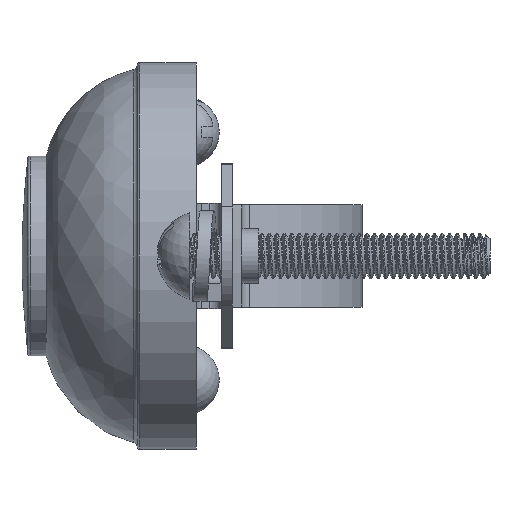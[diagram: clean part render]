
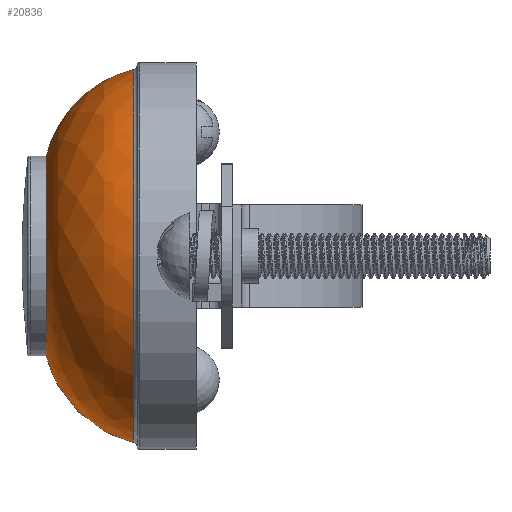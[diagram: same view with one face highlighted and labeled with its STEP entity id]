
A CAD part, left-side view. The second image highlights one B-rep face of the part: STEP entity #20836.
In plain terms, the highlighted free-form (B-spline) face has degree [2, 2] with [3, 9] control points.
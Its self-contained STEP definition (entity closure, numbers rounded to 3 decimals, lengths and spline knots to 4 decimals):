
#1575=(
BOUNDED_SURFACE()
B_SPLINE_SURFACE(2,2,((#29609,#29610,#29611,#29612,#29613,#29614,#29615,
#29616,#29617),(#29618,#29619,#29620,#29621,#29622,#29623,#29624,#29625,
#29626),(#29627,#29628,#29629,#29630,#29631,#29632,#29633,#29634,#29635)),
 .UNSPECIFIED.,.F.,.T.,.F.)
B_SPLINE_SURFACE_WITH_KNOTS((3,3),(3,2,2,2,3),(-1.3191,-0.2413),
(-3.1416,-1.5708,0.,1.5708,3.1416),
 .UNSPECIFIED.)
GEOMETRIC_REPRESENTATION_ITEM()
RATIONAL_B_SPLINE_SURFACE(((1.,0.707,1.,0.707,1.,
0.707,1.,0.707,1.),(0.858,0.607,
0.858,0.607,0.858,0.607,
0.858,0.607,0.858),(1.,0.707,
1.,0.707,1.,0.707,1.,0.707,1.)))
REPRESENTATION_ITEM('')
SURFACE()
);
#2544=FACE_OUTER_BOUND('',#3740,.T.);
#3740=EDGE_LOOP('',(#14580,#14581,#14582,#14583,#14584,#14585,#14586));
#9235=CIRCLE('',#22275,0.7765);
#9237=CIRCLE('',#22277,0.7765);
#9238=CIRCLE('',#22278,0.5);
#9239=CIRCLE('',#22279,0.4155);
#9240=CIRCLE('',#22280,0.4155);
#9241=CIRCLE('',#22281,0.4155);
#9523=VERTEX_POINT('',#29604);
#9524=VERTEX_POINT('',#29605);
#9525=VERTEX_POINT('',#29636);
#9526=VERTEX_POINT('',#29638);
#9527=VERTEX_POINT('',#29640);
#11449=EDGE_CURVE('',#9523,#9524,#9235,.T.);
#11451=EDGE_CURVE('',#9524,#9523,#9237,.T.);
#11452=EDGE_CURVE('',#9524,#9525,#9238,.T.);
#11453=EDGE_CURVE('',#9525,#9526,#9239,.T.);
#11454=EDGE_CURVE('',#9526,#9527,#9240,.T.);
#11455=EDGE_CURVE('',#9527,#9525,#9241,.T.);
#14580=ORIENTED_EDGE('',*,*,#11449,.F.);
#14581=ORIENTED_EDGE('',*,*,#11451,.F.);
#14582=ORIENTED_EDGE('',*,*,#11452,.T.);
#14583=ORIENTED_EDGE('',*,*,#11453,.T.);
#14584=ORIENTED_EDGE('',*,*,#11454,.T.);
#14585=ORIENTED_EDGE('',*,*,#11455,.T.);
#14586=ORIENTED_EDGE('',*,*,#11452,.F.);
#20836=ADVANCED_FACE('',(#2544),#1575,.F.);
#22275=AXIS2_PLACEMENT_3D('',#29606,#24058,#24059);
#22277=AXIS2_PLACEMENT_3D('',#29608,#24062,#24063);
#22278=AXIS2_PLACEMENT_3D('',#29637,#24064,#24065);
#22279=AXIS2_PLACEMENT_3D('',#29639,#24066,#24067);
#22280=AXIS2_PLACEMENT_3D('',#29641,#24068,#24069);
#22281=AXIS2_PLACEMENT_3D('',#29642,#24070,#24071);
#24058=DIRECTION('center_axis',(0.,-1.,0.));
#24059=DIRECTION('ref_axis',(1.,0.,0.));
#24062=DIRECTION('center_axis',(0.,-1.,0.));
#24063=DIRECTION('ref_axis',(1.,0.,0.));
#24064=DIRECTION('center_axis',(-1.,0.,0.));
#24065=DIRECTION('ref_axis',(0.,0.,1.));
#24066=DIRECTION('center_axis',(0.,-1.,0.));
#24067=DIRECTION('ref_axis',(1.,0.,0.));
#24068=DIRECTION('center_axis',(0.,-1.,0.));
#24069=DIRECTION('ref_axis',(1.,0.,0.));
#24070=DIRECTION('center_axis',(0.,-1.,0.));
#24071=DIRECTION('ref_axis',(1.,0.,0.));
#29604=CARTESIAN_POINT('',(0.7765,0.2602,0.));
#29605=CARTESIAN_POINT('',(0.,0.2602,0.7765));
#29606=CARTESIAN_POINT('Origin',(0.,0.2602,0.));
#29608=CARTESIAN_POINT('Origin',(0.,0.2602,0.));
#29609=CARTESIAN_POINT('Ctrl Pts',(0.,0.625,0.4155));
#29610=CARTESIAN_POINT('Ctrl Pts',(-0.4155,0.625,0.4155));
#29611=CARTESIAN_POINT('Ctrl Pts',(-0.4155,0.625,0.));
#29612=CARTESIAN_POINT('Ctrl Pts',(-0.4155,0.625,-0.4155));
#29613=CARTESIAN_POINT('Ctrl Pts',(0.,0.625,-0.4155));
#29614=CARTESIAN_POINT('Ctrl Pts',(0.4155,0.625,-0.4155));
#29615=CARTESIAN_POINT('Ctrl Pts',(0.4155,0.625,0.));
#29616=CARTESIAN_POINT('Ctrl Pts',(0.4155,0.625,0.4155));
#29617=CARTESIAN_POINT('Ctrl Pts',(0.,0.625,0.4155));
#29618=CARTESIAN_POINT('Ctrl Pts',(0.,0.5505,0.7051));
#29619=CARTESIAN_POINT('Ctrl Pts',(-0.7051,0.5505,
0.7051));
#29620=CARTESIAN_POINT('Ctrl Pts',(-0.7051,0.5505,
0.));
#29621=CARTESIAN_POINT('Ctrl Pts',(-0.7051,0.5505,
-0.7051));
#29622=CARTESIAN_POINT('Ctrl Pts',(0.,0.5505,-0.7051));
#29623=CARTESIAN_POINT('Ctrl Pts',(0.7051,0.5505,
-0.7051));
#29624=CARTESIAN_POINT('Ctrl Pts',(0.7051,0.5505,
0.));
#29625=CARTESIAN_POINT('Ctrl Pts',(0.7051,0.5505,
0.7051));
#29626=CARTESIAN_POINT('Ctrl Pts',(0.,0.5505,0.7051));
#29627=CARTESIAN_POINT('Ctrl Pts',(0.,0.2602,0.7765));
#29628=CARTESIAN_POINT('Ctrl Pts',(-0.7765,0.2602,
0.7765));
#29629=CARTESIAN_POINT('Ctrl Pts',(-0.7765,0.2602,
0.));
#29630=CARTESIAN_POINT('Ctrl Pts',(-0.7765,0.2602,
-0.7765));
#29631=CARTESIAN_POINT('Ctrl Pts',(0.,0.2602,-0.7765));
#29632=CARTESIAN_POINT('Ctrl Pts',(0.7765,0.2602,
-0.7765));
#29633=CARTESIAN_POINT('Ctrl Pts',(0.7765,0.2602,
0.));
#29634=CARTESIAN_POINT('Ctrl Pts',(0.7765,0.2602,
0.7765));
#29635=CARTESIAN_POINT('Ctrl Pts',(0.,0.2602,0.7765));
#29636=CARTESIAN_POINT('',(0.,0.625,0.4155));
#29637=CARTESIAN_POINT('Origin',(0.,0.1408,
0.291));
#29638=CARTESIAN_POINT('',(-0.4155,0.625,0.));
#29639=CARTESIAN_POINT('Origin',(0.,0.625,0.));
#29640=CARTESIAN_POINT('',(0.4155,0.625,0.));
#29641=CARTESIAN_POINT('Origin',(0.,0.625,0.));
#29642=CARTESIAN_POINT('Origin',(0.,0.625,0.));
